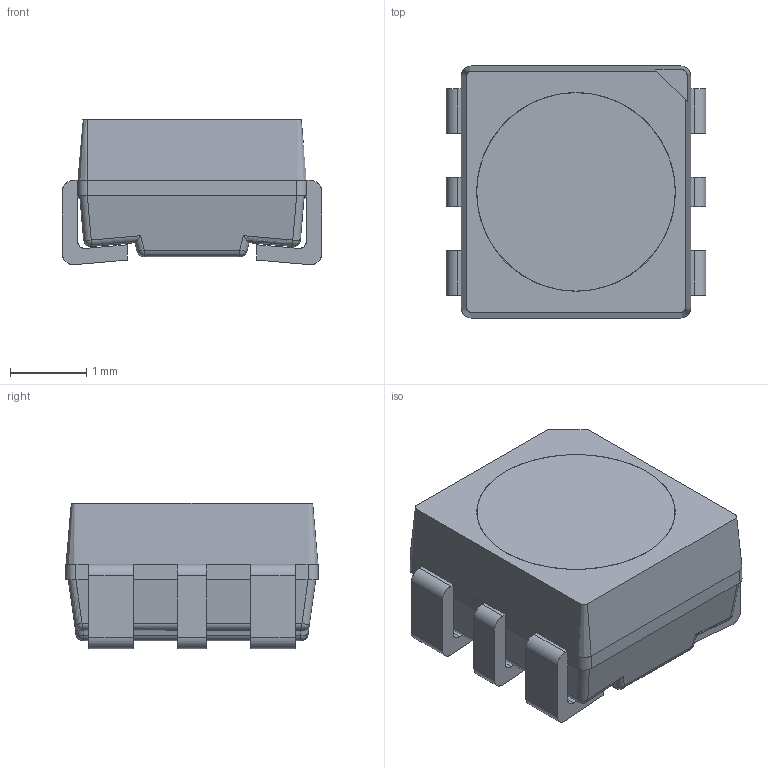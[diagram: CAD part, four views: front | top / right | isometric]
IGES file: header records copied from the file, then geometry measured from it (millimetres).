
Start section: SolidWorks IGES file using analytic representation for surfaces
Global section: file name: C:\Users\user\Desktop\XYY\1-车灯产品3D图汇总\3433-OK\LWC-OK\光学模型\LWC.IGS; native system: SolidWorks 2022; preprocessor: SolidWorks 2022; author: user; date: 250323.160523; units: millimetre
Bounding box: 3.4 x 3.3 x 1.9 mm (x, y, z)
Surface area: 53.6 mm2 (no closed solid volume)
Topology: 0 solids, 0 shells, 140 faces, 1514 edges, 1877 vertices
Faces by surface type: bspline 80, revolution 60
